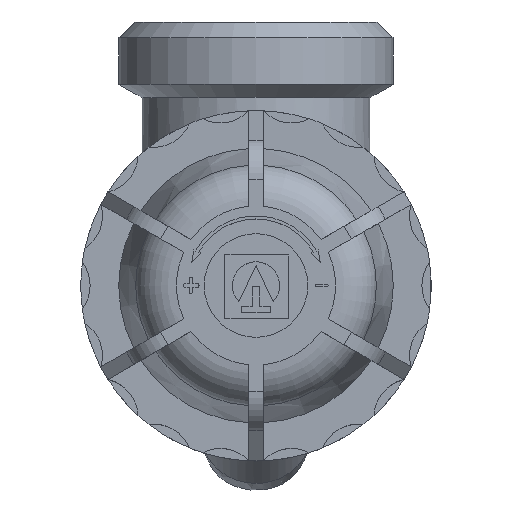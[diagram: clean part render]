
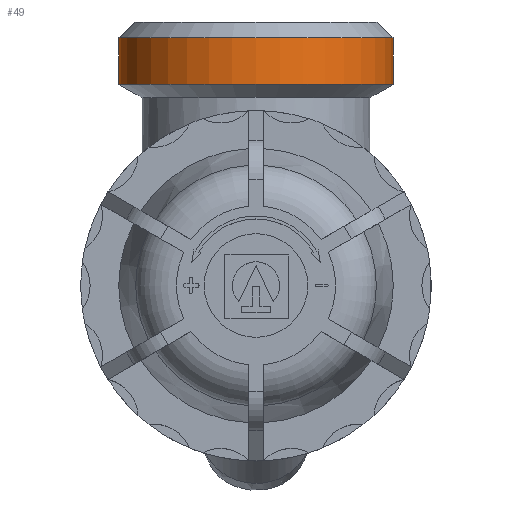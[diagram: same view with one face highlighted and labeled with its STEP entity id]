
A CAD part, top view. The second image highlights one B-rep face of the part: STEP entity #49.
In plain terms, the highlighted cylindrical face has radius 13.22 mm (diameter 26.441 mm), a full revolution.
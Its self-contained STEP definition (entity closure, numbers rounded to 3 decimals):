
#49=ADVANCED_FACE('',(#409,#411),#413,.T.);
#409=FACE_BOUND('',#410,.T.);
#410=EDGE_LOOP('',(#3627,#3628));
#411=FACE_OUTER_BOUND('',#412,.T.);
#412=EDGE_LOOP('',(#3629));
#413=CYLINDRICAL_SURFACE('',#414,13.221);
#414=AXIS2_PLACEMENT_3D('',#415,#416,#417);
#415=CARTESIAN_POINT('',(0.,19.5,0.));
#416=DIRECTION('',(0.,1.,0.));
#417=DIRECTION('',(-1.,0.,0.));
#3627=ORIENTED_EDGE('',*,*,#5477,.F.);
#3628=ORIENTED_EDGE('',*,*,#5478,.F.);
#3629=ORIENTED_EDGE('',*,*,#5476,.F.);
#5476=EDGE_CURVE('',#6308,#6308,#6309,.T.);
#5477=EDGE_CURVE('',#6310,#6311,#6312,.T.);
#5478=EDGE_CURVE('',#6311,#6310,#6313,.T.);
#6308=VERTEX_POINT('',#7710);
#6309=CIRCLE('',#7711,13.221);
#6310=VERTEX_POINT('',#7715);
#6311=VERTEX_POINT('',#7716);
#6312=CIRCLE('',#7717,13.221);
#6313=CIRCLE('',#7721,13.221);
#7710=CARTESIAN_POINT('',(-13.221,24.,0.));
#7711=AXIS2_PLACEMENT_3D('',#7712,#7713,#7714);
#7712=CARTESIAN_POINT('',(0.,24.,0.));
#7713=DIRECTION('',(0.,1.,0.));
#7714=DIRECTION('',(-1.,0.,0.));
#7715=CARTESIAN_POINT('',(-13.221,19.5,0.));
#7716=CARTESIAN_POINT('',(0.,19.5,-13.221));
#7717=AXIS2_PLACEMENT_3D('',#7718,#7719,#7720);
#7718=CARTESIAN_POINT('',(0.,19.5,0.));
#7719=DIRECTION('',(0.,-1.,0.));
#7720=DIRECTION('',(-1.,0.,0.));
#7721=AXIS2_PLACEMENT_3D('',#7722,#7723,#7724);
#7722=CARTESIAN_POINT('',(0.,19.5,0.));
#7723=DIRECTION('',(0.,-1.,0.));
#7724=DIRECTION('',(0.,0.,-1.));
